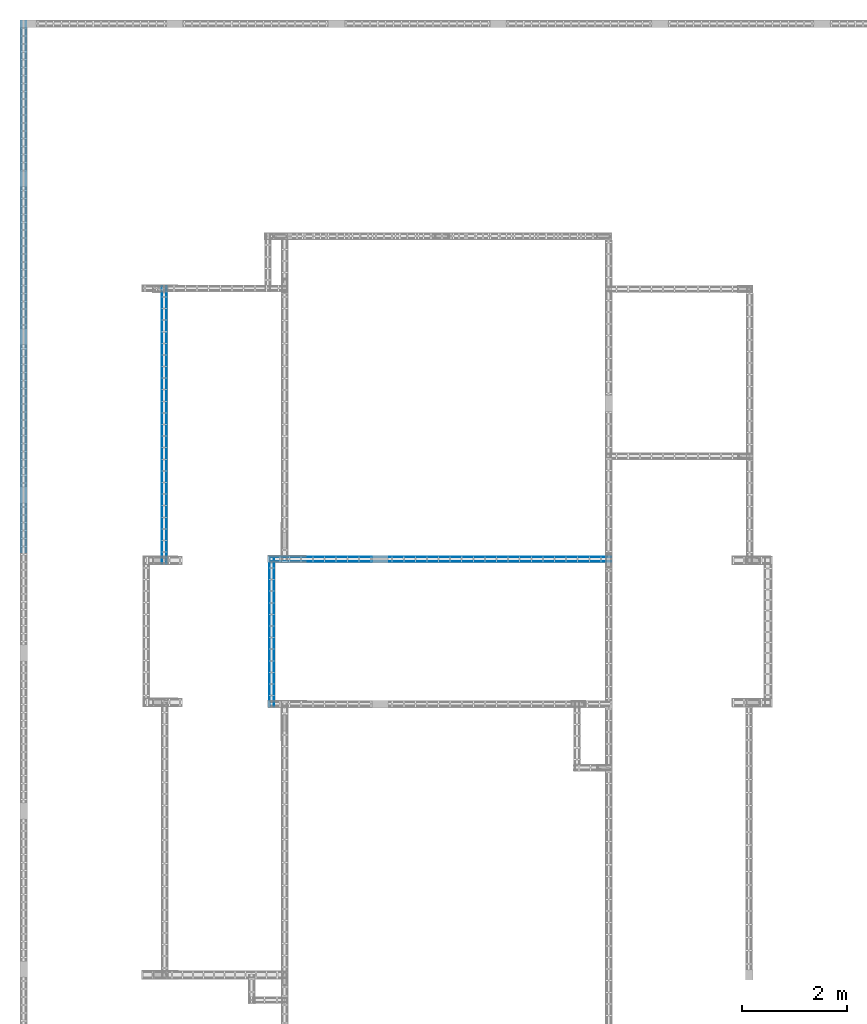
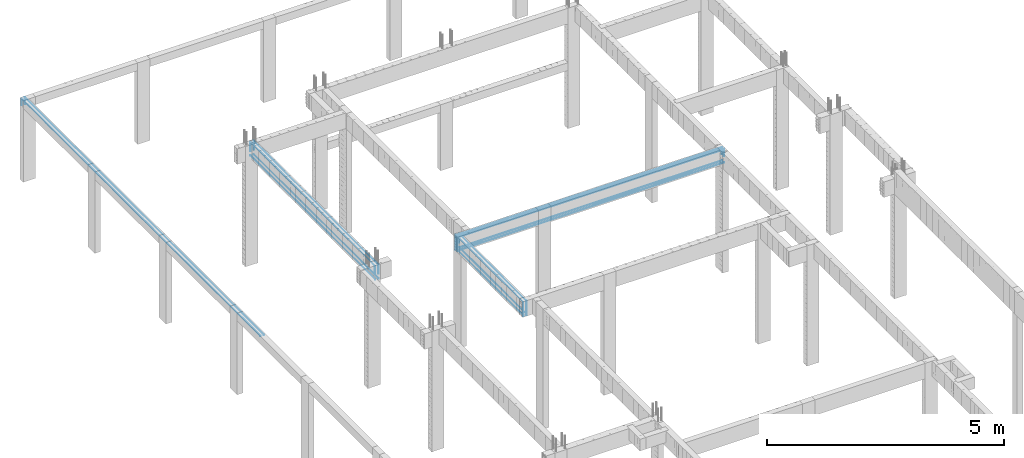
# One storey, part 122 of 236: 14 reinforcing bars.
"""IFC4 building model written with IfcOpenShell, lengths in centimetres."""

from ifc_helpers import new_model, entity, si_unit, derived_unit, frame, origin_with_axes, place, context, project, spatial, element, save


model = new_model("IFC4")

# Units and contexts
model_context = context("Model", 3, precision=1e-05, world=origin_with_axes(), identifier="Body")
ifc_project = project(units=[si_unit("LENGTHUNIT", "METRE", prefix="CENTI"), si_unit("VOLUMEUNIT", "CUBIC_METRE"), si_unit("AREAUNIT", "SQUARE_METRE"), si_unit("POWERUNIT", "WATT"), si_unit("LUMINOUSFLUXUNIT", "LUMEN"), si_unit("ELECTRICCURRENTUNIT", "AMPERE"), si_unit("PRESSUREUNIT", "PASCAL", prefix="KILO"), si_unit("MASSUNIT", "GRAM", prefix="KILO"), si_unit("PLANEANGLEUNIT", "RADIAN"), derived_unit("VOLUMETRICFLOWRATEUNIT", [(si_unit("LENGTHUNIT", "METRE"), 3), (si_unit("TIMEUNIT", "SECOND"), -1)])], contexts=[model_context])

# Site, building, storey
site_placement = place(None, frame((-4000.0, 0.0, 0.0), z_axis=(0.0, 0.0, 1.0), x_axis=(1.0, 0.0, 0.0)))
site = spatial("IfcSite", under=ifc_project, at=site_placement, Name="PADRÃO")
building_placement = place(site_placement, frame((0.0, 0.0, -14.0)))
building = spatial("IfcBuilding", under=site, at=building_placement, Name="CRECHE PRÉ-ESCOLA TIPO 2")
placement_1 = place(building_placement, origin_with_axes())
placement_2 = place(placement_1, frame((0.0, 0.0, 30.0), z_axis=(0.0, 0.0, 1.0), x_axis=(1.0, 0.0, 0.0)))
storey_placement = place(placement_2, frame((0.0, 0.0, 310.0), z_axis=(0.0, 0.0, 1.0), x_axis=(1.0, 0.0, 0.0)))
storey = spatial("IfcBuildingStorey", under=building, at=storey_placement, Name="TERREO", CompositionType="ELEMENT", Elevation=326.0)

# Reinforcing bars
for number, where, z_axis, x_axis, name in (
    (1, (798.954856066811, 3476.46924159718, -14.8022873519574), (0.0, 0.0, 1.0), (1.0, 0.0, 0.0), "V210 - Longitudinal inferior"),
    (2, (798.951505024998, 3468.2692422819, -14.8022873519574), (0.0, 0.0, 1.0), (1.0, 0.0, 0.0), "V210 - Longitudinal inferior"),
):
    element("IfcReinforcingBar", number, at=place(storey_placement, frame(where, z_axis=z_axis, x_axis=x_axis)), inside=storey, Name=name, BarLength=0.0, CrossSectionArea=5.0265482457e-05, NominalDiameter=0.8, PredefinedType="MAIN", context=model_context, shape_type="AdvancedSweptSolid", body=[
        entity("IfcSweptDiskSolid", entity("IfcCompositeCurve", [entity("IfcCompositeCurveSegment", "CONTINUOUS", True, entity("IfcPolyline", [entity("IfcCartesianPoint", [-324.363180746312, 0.132637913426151, 0.0]), entity("IfcCartesianPoint", [-324.363180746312, 0.132637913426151, -22.2977126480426])])), entity("IfcCompositeCurveSegment", "CONTINUOUS", True, entity("IfcPolyline", [entity("IfcCartesianPoint", [-324.363180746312, 0.132637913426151, -22.2977126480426]), entity("IfcCartesianPoint", [324.766767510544, -0.132637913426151, -22.2977126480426])]))], False), 0.4),
    ])
for number, where, z_axis, x_axis, name in (
    (3, (798.953339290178, 3468.36932400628, -2.49531217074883), (0.0, 0.0, 1.0), (1.0, 0.0, 0.0), "V210 - Longitudinal superior"),
    (4, (798.956608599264, 3476.36932333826, -2.49531217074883), (0.0, 0.0, 1.0), (1.0, 0.0, 0.0), "V210 - Longitudinal superior"),
):
    element("IfcReinforcingBar", number, at=place(storey_placement, frame(where, z_axis=z_axis, x_axis=x_axis)), inside=storey, Name=name, BarLength=0.0, CrossSectionArea=7.853981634e-05, NominalDiameter=1.0, PredefinedType="MAIN", context=model_context, shape_type="AdvancedSweptSolid", body=[
        entity("IfcSweptDiskSolid", entity("IfcCompositeCurve", [entity("IfcCompositeCurveSegment", "CONTINUOUS", True, entity("IfcPolyline", [entity("IfcCartesianPoint", [-324.264974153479, 0.132515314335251, -36.5046878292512]), entity("IfcCartesianPoint", [-324.264974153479, 0.132515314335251, -0.504687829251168])])), entity("IfcCompositeCurveSegment", "CONTINUOUS", True, entity("IfcPolyline", [entity("IfcCartesianPoint", [-324.264974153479, 0.132515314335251, -0.504687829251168]), entity("IfcCartesianPoint", [324.264974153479, -0.132515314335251, -0.504687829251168])])), entity("IfcCompositeCurveSegment", "CONTINUOUS", True, entity("IfcPolyline", [entity("IfcCartesianPoint", [324.264974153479, -0.132515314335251, -0.504687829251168]), entity("IfcCartesianPoint", [324.264974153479, -0.132515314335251, -18.3428579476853])]))], False), 0.5),
    ])
for number, where, z_axis, x_axis, name in (
    (5, (279.110060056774, 3726.75014814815, -36.7), (0.0, 0.0, 1.0), (1.0, 0.0, 0.0), "V264 - Longitudinal inferior"),
    (6, (270.910060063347, 3726.74981981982, -36.7), (0.0, 0.0, 1.0), (1.0, 0.0, 0.0), "V264 - Longitudinal inferior"),
):
    element("IfcReinforcingBar", number, at=place(storey_placement, frame(where, z_axis=z_axis, x_axis=x_axis)), inside=storey, Name=name, BarLength=0.0, CrossSectionArea=5.0265482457e-05, NominalDiameter=0.8, PredefinedType="MAIN", context=model_context, shape_type="AdvancedSweptSolid", body=[
        entity("IfcSweptDiskSolid", entity("IfcCompositeCurve", [entity("IfcCompositeCurveSegment", "CONTINUOUS", True, entity("IfcPolyline", [entity("IfcCartesianPoint", [0.010540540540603, -263.249983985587, -0.4]), entity("IfcCartesianPoint", [-0.010540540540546, 263.25001601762, -0.4])]))], False), 0.4),
    ])
for number, where, z_axis, x_axis, name in (
    (7, (279.110060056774, 3726.75051335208, -2.49555136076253), (0.0, 0.0, 1.0), (1.0, 0.0, 0.0), "V264 - Longitudinal superior"),
    (8, (270.910060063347, 3726.75018502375, -2.49555136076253), (0.0, 0.0, 1.0), (1.0, 0.0, 0.0), "V264 - Longitudinal superior"),
):
    element("IfcReinforcingBar", number, at=place(storey_placement, frame(where, z_axis=z_axis, x_axis=x_axis)), inside=storey, Name=name, BarLength=0.0, CrossSectionArea=5.0265482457e-05, NominalDiameter=0.8, PredefinedType="MAIN", context=model_context, shape_type="AdvancedSweptSolid", body=[
        entity("IfcSweptDiskSolid", entity("IfcCompositeCurve", [entity("IfcCompositeCurveSegment", "CONTINUOUS", True, entity("IfcPolyline", [entity("IfcCartesianPoint", [0.010524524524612, -262.850349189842, -22.7021612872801]), entity("IfcCartesianPoint", [0.010524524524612, -262.850349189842, -0.404448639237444])])), entity("IfcCompositeCurveSegment", "CONTINUOUS", True, entity("IfcPolyline", [entity("IfcCartesianPoint", [0.010524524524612, -262.850349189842, -0.404448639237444]), entity("IfcCartesianPoint", [-0.010524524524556, 262.849650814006, -0.404448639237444])])), entity("IfcCompositeCurveSegment", "CONTINUOUS", True, entity("IfcPolyline", [entity("IfcCartesianPoint", [-0.010524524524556, 262.849650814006, -0.404448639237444]), entity("IfcCartesianPoint", [-0.010524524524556, 262.849650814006, -22.7021612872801])]))], False), 0.4),
    ])
for number, where, z_axis, x_axis, name in (
    (9, (483.29, 3334.99500029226, -36.7), (0.0, 0.0, 1.0), (1.0, 0.0, 0.0), "V271 - Longitudinal inferior"),
    (10, (475.09, 3334.99500029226, -36.7), (0.0, 0.0, 1.0), (1.0, 0.0, 0.0), "V271 - Longitudinal inferior"),
):
    element("IfcReinforcingBar", number, at=place(storey_placement, frame(where, z_axis=z_axis, x_axis=x_axis)), inside=storey, Name=name, BarLength=0.0, CrossSectionArea=5.0265482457e-05, NominalDiameter=0.8, PredefinedType="MAIN", context=model_context, shape_type="AdvancedSweptSolid", body=[
        entity("IfcSweptDiskSolid", entity("IfcCompositeCurve", [entity("IfcCompositeCurveSegment", "CONTINUOUS", True, entity("IfcPolyline", [entity("IfcCartesianPoint", [0.0, -142.505000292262, -0.4]), entity("IfcCartesianPoint", [0.0, 142.505000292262, -0.4])]))], False), 0.4),
    ])
for number, where, z_axis, x_axis, name in (
    (11, (475.09, 3334.99500029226, -2.49624973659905), (0.0, 0.0, 1.0), (1.0, 0.0, 0.0), "V271 - Longitudinal superior"),
    (12, (483.29, 3334.99500029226, -2.49624973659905), (0.0, 0.0, 1.0), (1.0, 0.0, 0.0), "V271 - Longitudinal superior"),
):
    element("IfcReinforcingBar", number, at=place(storey_placement, frame(where, z_axis=z_axis, x_axis=x_axis)), inside=storey, Name=name, BarLength=0.0, CrossSectionArea=5.0265482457e-05, NominalDiameter=0.8, PredefinedType="MAIN", context=model_context, shape_type="AdvancedSweptSolid", body=[
        entity("IfcSweptDiskSolid", entity("IfcCompositeCurve", [entity("IfcCompositeCurveSegment", "CONTINUOUS", True, entity("IfcPolyline", [entity("IfcCartesianPoint", [0.0, -142.105000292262, -36.4037502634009]), entity("IfcCartesianPoint", [0.0, -142.105000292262, -0.403750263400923])])), entity("IfcCompositeCurveSegment", "CONTINUOUS", True, entity("IfcPolyline", [entity("IfcCartesianPoint", [0.0, -142.105000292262, -0.403750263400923]), entity("IfcCartesianPoint", [0.0, 142.105000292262, -0.403750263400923])])), entity("IfcCompositeCurveSegment", "CONTINUOUS", True, entity("IfcPolyline", [entity("IfcCartesianPoint", [0.0, 142.105000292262, -0.403750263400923]), entity("IfcCartesianPoint", [0.0, 142.105000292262, -22.7014629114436])]))], False), 0.4),
    ])
for number, where, z_axis, x_axis, name in (
    (13, (4.4, 3989.74605994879, -102.496249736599), (0.0, 0.0, 1.0), (1.0, 0.0, 0.0), "V324 - Longitudinal superior"),
    (14, (12.6, 3989.74605994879, -102.496249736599), (0.0, 0.0, 1.0), (1.0, 0.0, 0.0), "V324 - Longitudinal superior"),
):
    element("IfcReinforcingBar", number, at=place(storey_placement, frame(where, z_axis=z_axis, x_axis=x_axis)), inside=storey, Name=name, BarLength=0.0, CrossSectionArea=5.0265482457e-05, NominalDiameter=0.8, PredefinedType="MAIN", context=model_context, shape_type="AdvancedSweptSolid", body=[
        entity("IfcSweptDiskSolid", entity("IfcCompositeCurve", [entity("IfcCompositeCurveSegment", "CONTINUOUS", True, entity("IfcPolyline", [entity("IfcCartesianPoint", [0.0, -503.757690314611, -0.403750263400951]), entity("IfcCartesianPoint", [0.0, 503.353940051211, -0.403750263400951])])), entity("IfcCompositeCurveSegment", "CONTINUOUS", True, entity("IfcPolyline", [entity("IfcCartesianPoint", [0.0, 503.353940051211, -0.403750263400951]), entity("IfcCartesianPoint", [0.0, 503.353940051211, -16.4021012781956])]))], False), 0.4),
    ])

save(model, "model.ifc")
